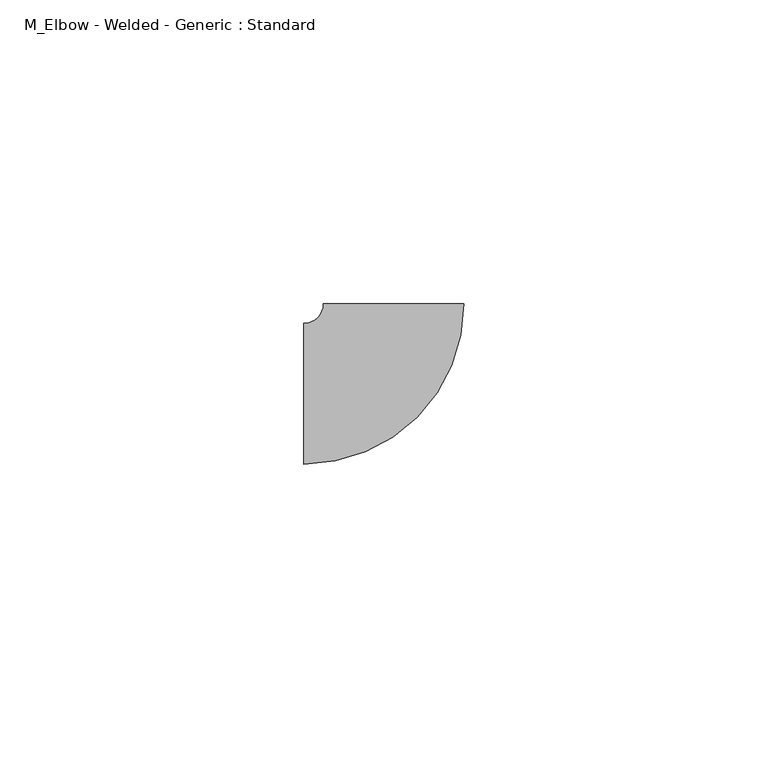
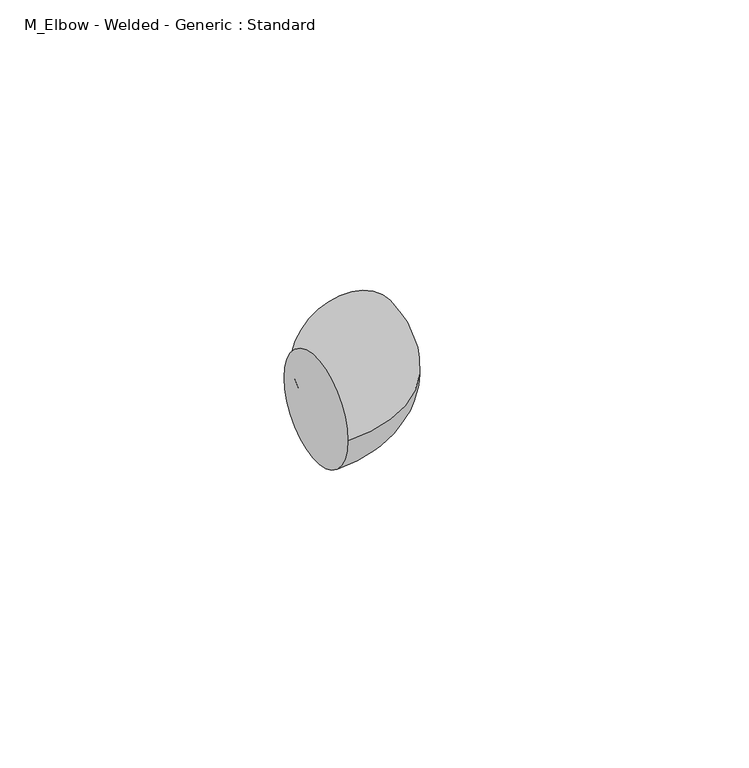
"""IFC4 building model written with IfcOpenShell, lengths in millimetres: pipe fitting geometry, M_Elbow - Welded - Generic : Standard."""

from ifc_helpers import new_model, si_unit, point, frame, origin, place, context, project, spatial, circle_curve, ellipse_curve, trimmed, source, transform, mapped, element, save
from ifc_brep_helpers import plane_surface, revolved_surface, advanced_brep


def m_elbow_welded_generic_standard_3d1f096c(model_context):
    return source(origin(), model_context, "Body", "AdvancedBrep", [
        advanced_brep(
        [(-14.7589844, -11.5589844, 0.0), (-14.7589844, 11.5589844, 0.0), (11.5589844, 14.7589844, 0.0), (-11.5589844, 14.7589844, 0.0)],
        [
            (0, 1, circle_curve(frame((-14.7589844, 0.0, 0.0), z_axis=(-1.0, 0.0, 0.0), x_axis=(0.0, 1.0, 0.0)), 11.5589844)),
            (1, 0, circle_curve(frame((-14.7589844, 0.0, 0.0), z_axis=(-1.0, 0.0, 0.0), x_axis=(0.0, 1.0, 0.0)), 11.5589844)),
            (2, 3, circle_curve(frame((0.0, 14.7589844, 0.0), z_axis=(0.0, 1.0, 0.0), x_axis=(-1.0, 0.0, 0.0)), 11.5589844)),
            (3, 2, circle_curve(frame((0.0, 14.7589844, 0.0), z_axis=(0.0, 1.0, 0.0), x_axis=(-1.0, 0.0, 0.0)), 11.5589844)),
            (3, 1, circle_curve(frame((-14.7589844, 14.7589844, 0.0), z_axis=(0.0, 0.0, -1.0), x_axis=(0.0, -1.0, 0.0)), 3.2)),
            (0, 2, circle_curve(frame((-14.7589844, 14.7589844, 0.0), z_axis=(0.0, 0.0, 1.0), x_axis=(0.0, -1.0, 0.0)), 26.3179687)),
        ],
        [
            plane_surface(frame((-14.7589844, 0.0, 0.0), z_axis=(-1.0, 0.0, 0.0), x_axis=(0.0, 0.0, 1.0))),
            plane_surface(frame((0.0, 14.7589844, 0.0), z_axis=(0.0, 1.0, 0.0), x_axis=(0.0, 0.0, 1.0))),
            revolved_surface(trimmed(ellipse_curve(frame((-14.7589844, 0.0, 0.0), z_axis=(-1.0, 0.0, 0.0), x_axis=(0.0, 1.0, 0.0)), 11.5589844, 11.5589844), [point((-14.7589844, -11.5589844, 0.0))], [point((-14.7589844, 11.5589844, 0.0))], True, "CARTESIAN"), (-14.7589844, 14.7589844, 0.0), (0.0, 0.0, 1.0)),
            revolved_surface(trimmed(ellipse_curve(frame((-14.7589844, 0.0, 0.0), z_axis=(-1.0, 0.0, 0.0), x_axis=(0.0, 1.0, 0.0)), 11.5589844, 11.5589844), [point((-14.7589844, 11.5589844, 0.0))], [point((-14.7589844, -11.5589844, 0.0))], True, "CARTESIAN"), (-14.7589844, 14.7589844, 0.0), (0.0, 0.0, 1.0)),
        ],
        [
            (0, [[1, 2]]),
            (1, [[3, 4]]),
            (2, [[5, -1, 6, -4]]),
            (3, [[-6, -2, -5, -3]]),
        ],
    ),
    ])


if __name__ == "__main__":
    model = new_model("IFC4")
    model_context = context("Model", 3, world=origin())
    ifc_project = project(units=[si_unit("LENGTHUNIT", "METRE", prefix="MILLI")], contexts=[model_context])
    site = spatial("IfcSite", under=ifc_project)
    building = spatial("IfcBuilding", under=site)
    placement = place(None, origin())
    m_elbow_welded_generic_standard_shape = m_elbow_welded_generic_standard_3d1f096c(model_context)
    element("IfcPipeFitting", 1, ObjectType="M_Elbow - Welded - Generic : Standard", at=placement, inside=building, context=model_context, shape_type="MappedRepresentation", body=[
        mapped(m_elbow_welded_generic_standard_shape, transform((0.0, 0.0, 0.0), x_axis=(1.0, 0.0, 0.0), y_axis=(0.0, 1.0, 0.0), z_axis=(0.0, 0.0, 1.0))),
    ])
    save(model, "model.ifc")
